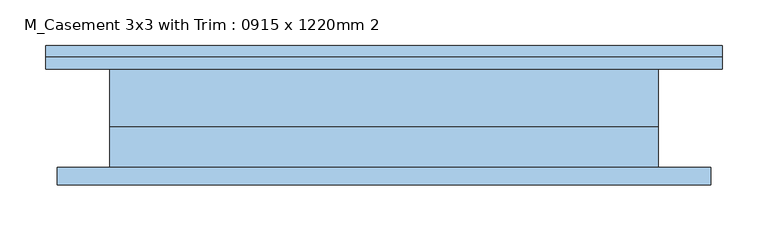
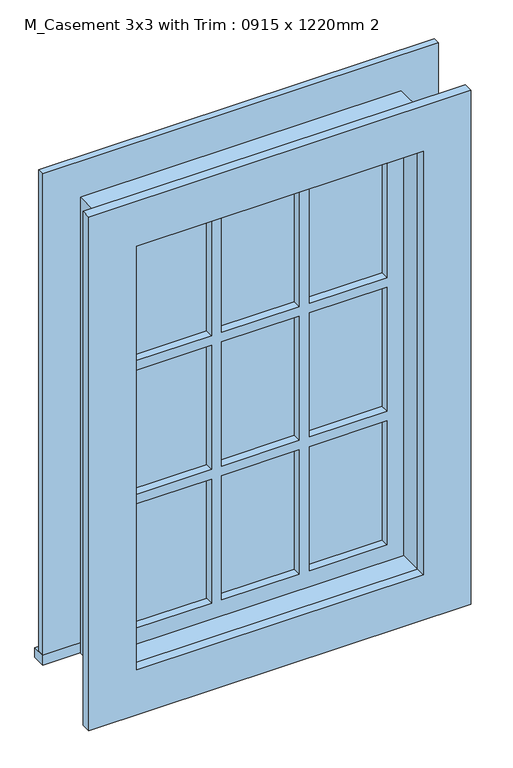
"""IFC4 building model written with IfcOpenShell, lengths in millimetres: window geometry, M_Casement 3x3 with Trim : 0915 x 1220mm 2."""

from ifc_helpers import new_model, si_unit, frame, origin, place, context, project, spatial, polyline, outline, extrude, source, transform, mapped, element, save


def m_casement_3x3_with_trim_0915_x_1220mm_2_c26879e4(model_context):
    return source(origin(), model_context, "Body", "SweptSolid", [
        extrude(outline(polyline([(-369.95, 79.7), (369.95, 79.7), (369.95, 54.0), (-369.95, 54.0), (-369.95, 79.7)])), frame((0.0, 0.0, 915.0), z_axis=(0.0, 0.0, 1.0), x_axis=(1.0, 0.0, 0.0)), (0.0, 0.0, 1.0), 19.05),
        extrude(outline(polyline([(1795.95, -280.95), (1795.95, 280.95), (934.05, 280.95), (934.05, 369.95), (1884.95, 369.95), (1884.95, -369.95), (934.05, -369.95), (934.05, -280.95), (1795.95, -280.95)])), frame((0.0, 54.0, 0.0), z_axis=(0.0, 1.0, 0.0), x_axis=(0.0, 0.0, 1.0)), (0.0, 0.0, 1.0), 13.0),
        extrude(outline(polyline([(91.5333333, 19.125), (236.5, 19.125), (236.5, 6.425), (91.5333333, 6.425), (91.5333333, 19.125)])), frame((0.0, 0.0, 1506.5333333), z_axis=(0.0, 0.0, 1.0), x_axis=(1.0, 0.0, 0.0)), (0.0, 0.0, 1.0), 244.9666667),
        extrude(outline(polyline([(-72.4833333, 19.125), (72.4833333, 19.125), (72.4833333, 6.425), (-72.4833333, 6.425), (-72.4833333, 19.125)])), frame((0.0, 0.0, 1506.5333333), z_axis=(0.0, 0.0, 1.0), x_axis=(1.0, 0.0, 0.0)), (0.0, 0.0, 1.0), 244.9666667),
        extrude(outline(polyline([(-236.5, 19.125), (-91.5333333, 19.125), (-91.5333333, 6.425), (-236.5, 6.425), (-236.5, 19.125)])), frame((0.0, 0.0, 1506.5333333), z_axis=(0.0, 0.0, 1.0), x_axis=(1.0, 0.0, 0.0)), (0.0, 0.0, 1.0), 244.9666667),
        extrude(outline(polyline([(-236.5, 19.125), (-91.5333333, 19.125), (-91.5333333, 6.425), (-236.5, 6.425), (-236.5, 19.125)])), frame((0.0, 0.0, 1242.5166667), z_axis=(0.0, 0.0, 1.0), x_axis=(1.0, 0.0, 0.0)), (0.0, 0.0, 1.0), 244.9666667),
        extrude(outline(polyline([(-72.4833333, 19.125), (72.4833333, 19.125), (72.4833333, 6.425), (-72.4833333, 6.425), (-72.4833333, 19.125)])), frame((0.0, 0.0, 1242.5166667), z_axis=(0.0, 0.0, 1.0), x_axis=(1.0, 0.0, 0.0)), (0.0, 0.0, 1.0), 244.9666667),
        extrude(outline(polyline([(91.5333333, 19.125), (236.5, 19.125), (236.5, 6.425), (91.5333333, 6.425), (91.5333333, 19.125)])), frame((0.0, 0.0, 1242.5166667), z_axis=(0.0, 0.0, 1.0), x_axis=(1.0, 0.0, 0.0)), (0.0, 0.0, 1.0), 244.9666667),
        extrude(outline(polyline([(91.5333333, 19.125), (236.5, 19.125), (236.5, 6.425), (91.5333333, 6.425), (91.5333333, 19.125)])), frame((0.0, 0.0, 978.5), z_axis=(0.0, 0.0, 1.0), x_axis=(1.0, 0.0, 0.0)), (0.0, 0.0, 1.0), 244.9666667),
        extrude(outline(polyline([(-72.4833333, 19.125), (72.4833333, 19.125), (72.4833333, 6.425), (-72.4833333, 6.425), (-72.4833333, 19.125)])), frame((0.0, 0.0, 978.5), z_axis=(0.0, 0.0, 1.0), x_axis=(1.0, 0.0, 0.0)), (0.0, 0.0, 1.0), 244.9666667),
        extrude(outline(polyline([(-236.5, 19.125), (-91.5333333, 19.125), (-91.5333333, 6.425), (-236.5, 6.425), (-236.5, 19.125)])), frame((0.0, 0.0, 978.5), z_axis=(0.0, 0.0, 1.0), x_axis=(1.0, 0.0, 0.0)), (0.0, 0.0, 1.0), 244.9666667),
        extrude(outline(polyline([(1872.25, 357.25), (1872.25, -357.25), (857.75, -357.25), (857.75, 357.25), (1872.25, 357.25)]), holes=[polyline([(1783.25, 268.25), (946.75, 268.25), (946.75, -268.25), (1783.25, -268.25), (1783.25, 268.25)])]), frame((0.0, -73.0, 0.0), z_axis=(0.0, 1.0, 0.0), x_axis=(0.0, 0.0, 1.0)), (0.0, 0.0, 1.0), 19.0),
        extrude(outline(polyline([(1795.95, -280.95), (934.05, -280.95), (934.05, 280.95), (1795.95, 280.95), (1795.95, -280.95)]), holes=[polyline([(1751.5, -91.5333333), (1506.5333333, -91.5333333), (1506.5333333, -236.5), (1751.5, -236.5), (1751.5, -91.5333333)]), polyline([(1487.4833333, -91.5333333), (1242.5166667, -91.5333333), (1242.5166667, -236.5), (1487.4833333, -236.5), (1487.4833333, -91.5333333)]), polyline([(1223.4666667, -91.5333333), (978.5, -91.5333333), (978.5, -236.5), (1223.4666667, -236.5), (1223.4666667, -91.5333333)]), polyline([(1751.5, 72.4833333), (1506.5333333, 72.4833333), (1506.5333333, -72.4833333), (1751.5, -72.4833333), (1751.5, 72.4833333)]), polyline([(1487.4833333, 72.4833333), (1242.5166667, 72.4833333), (1242.5166667, -72.4833333), (1487.4833333, -72.4833333), (1487.4833333, 72.4833333)]), polyline([(1223.4666667, 72.4833333), (978.5, 72.4833333), (978.5, -72.4833333), (1223.4666667, -72.4833333), (1223.4666667, 72.4833333)]), polyline([(1751.5, 236.5), (1506.5333333, 236.5), (1506.5333333, 91.5333333), (1751.5, 91.5333333), (1751.5, 236.5)]), polyline([(1487.4833333, 236.5), (1242.5166667, 236.5), (1242.5166667, 91.5333333), (1487.4833333, 91.5333333), (1487.4833333, 236.5)]), polyline([(1223.4666667, 236.5), (978.5, 236.5), (978.5, 91.5333333), (1223.4666667, 91.5333333), (1223.4666667, 236.5)])]), frame((0.0, -9.45, 0.0), z_axis=(0.0, 1.0, 0.0), x_axis=(0.0, 0.0, 1.0)), (0.0, 0.0, 1.0), 44.45),
        extrude(outline(polyline([(1815.0, -300.0), (915.0, -300.0), (915.0, 300.0), (1815.0, 300.0), (1815.0, -300.0)]), holes=[polyline([(1783.25, -268.25), (1783.25, 268.25), (946.75, 268.25), (946.75, -268.25), (1783.25, -268.25)])]), frame((0.0, -54.0, 0.0), z_axis=(0.0, 1.0, 0.0), x_axis=(0.0, 0.0, 1.0)), (0.0, 0.0, 1.0), 44.55),
        extrude(outline(polyline([(1815.0, 300.0), (1815.0, -300.0), (915.0, -300.0), (915.0, 300.0), (1815.0, 300.0)]), holes=[polyline([(1795.95, 280.95), (934.05, 280.95), (934.05, -280.95), (1795.95, -280.95), (1795.95, 280.95)])]), frame((0.0, -9.45, 0.0), z_axis=(0.0, 1.0, 0.0), x_axis=(0.0, 0.0, 1.0)), (0.0, 0.0, 1.0), 63.45),
    ])


if __name__ == "__main__":
    model = new_model("IFC4")
    model_context = context("Model", 3, world=origin())
    ifc_project = project(units=[si_unit("LENGTHUNIT", "METRE", prefix="MILLI")], contexts=[model_context])
    site = spatial("IfcSite", under=ifc_project)
    building = spatial("IfcBuilding", under=site)
    placement = place(None, origin())
    m_casement_3x3_with_trim_0915_x_1220mm_2_shape = m_casement_3x3_with_trim_0915_x_1220mm_2_c26879e4(model_context)
    element("IfcWindow", 1, ObjectType="M_Casement 3x3 with Trim : 0915 x 1220mm 2", at=placement, inside=building, context=model_context, shape_type="MappedRepresentation", body=[
        mapped(m_casement_3x3_with_trim_0915_x_1220mm_2_shape, transform((0.0, 0.0, 0.0), x_axis=(1.0, 0.0, 0.0), y_axis=(0.0, 1.0, 0.0), z_axis=(0.0, 0.0, 1.0))),
    ])
    save(model, "model.ifc")
